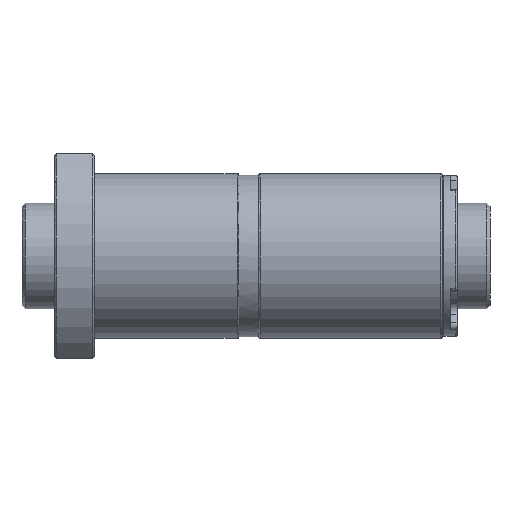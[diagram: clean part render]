
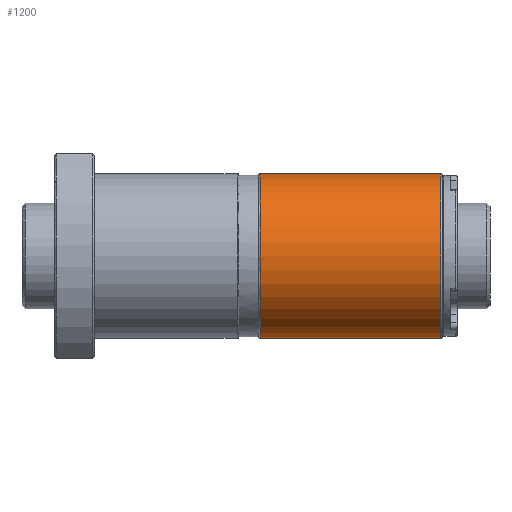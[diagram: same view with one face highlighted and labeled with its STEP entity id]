
A CAD part, front view. The second image highlights one B-rep face of the part: STEP entity #1200.
In plain terms, the highlighted cylindrical face has radius 25 mm (diameter 50 mm), a partial arc.
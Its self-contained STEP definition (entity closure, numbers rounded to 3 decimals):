
#1028 = AXIS2_PLACEMENT_3D ( 'NONE', #3173, #10742, #3872 ) ;
#1200 = ADVANCED_FACE ( 'NONE', ( #8860 ), #6443, .T. ) ;
#1290 = CIRCLE ( 'NONE', #1028, 25. ) ;
#1436 = EDGE_CURVE ( 'NONE', #7813, #2389, #2267, .T. ) ;
#1840 = CARTESIAN_POINT ( 'NONE',  ( 62.25, 0., 25. ) ) ;
#2092 = DIRECTION ( 'NONE',  ( -1., 0., 0. ) ) ;
#2253 = EDGE_CURVE ( 'NONE', #4598, #9145, #1290, .T. ) ;
#2267 = CIRCLE ( 'NONE', #9374, 25. ) ;
#2389 = VERTEX_POINT ( 'NONE', #9451 ) ;
#2994 = ORIENTED_EDGE ( 'NONE', *, *, #4267, .F. ) ;
#3046 = CARTESIAN_POINT ( 'NONE',  ( 117., 0., -25. ) ) ;
#3173 = CARTESIAN_POINT ( 'NONE',  ( 117., 0., 0. ) ) ;
#3362 = CARTESIAN_POINT ( 'NONE',  ( 62.25, 0., 0. ) ) ;
#3778 = CARTESIAN_POINT ( 'NONE',  ( 117.5, 0., 0. ) ) ;
#3872 = DIRECTION ( 'NONE',  ( 0., 0., 1. ) ) ;
#4267 = EDGE_CURVE ( 'NONE', #4598, #2389, #5850, .T. ) ;
#4598 = VERTEX_POINT ( 'NONE', #3046 ) ;
#4826 = ORIENTED_EDGE ( 'NONE', *, *, #2253, .T. ) ;
#5544 = DIRECTION ( 'NONE',  ( 0., 0., 1. ) ) ;
#5850 = LINE ( 'NONE', #6138, #6397 ) ;
#5926 = AXIS2_PLACEMENT_3D ( 'NONE', #3778, #2092, #5544 ) ;
#5967 = DIRECTION ( 'NONE',  ( 0., 0., 1. ) ) ;
#6000 = DIRECTION ( 'NONE',  ( 1., 0., 0. ) ) ;
#6138 = CARTESIAN_POINT ( 'NONE',  ( 117.5, 0., -25. ) ) ;
#6197 = LINE ( 'NONE', #6414, #10871 ) ;
#6378 = DIRECTION ( 'NONE',  ( -1., 0., 0. ) ) ;
#6397 = VECTOR ( 'NONE', #6953, 1000. ) ;
#6414 = CARTESIAN_POINT ( 'NONE',  ( 117.5, 0., 25. ) ) ;
#6443 = CYLINDRICAL_SURFACE ( 'NONE', #5926, 25. ) ;
#6953 = DIRECTION ( 'NONE',  ( -1., 0., 0. ) ) ;
#7397 = EDGE_CURVE ( 'NONE', #9145, #7813, #6197, .T. ) ;
#7813 = VERTEX_POINT ( 'NONE', #1840 ) ;
#8286 = EDGE_LOOP ( 'NONE', ( #2994, #4826, #10225, #8339 ) ) ;
#8339 = ORIENTED_EDGE ( 'NONE', *, *, #1436, .T. ) ;
#8594 = CARTESIAN_POINT ( 'NONE',  ( 117., 0., 25. ) ) ;
#8860 = FACE_OUTER_BOUND ( 'NONE', #8286, .T. ) ;
#9145 = VERTEX_POINT ( 'NONE', #8594 ) ;
#9374 = AXIS2_PLACEMENT_3D ( 'NONE', #3362, #6000, #5967 ) ;
#9451 = CARTESIAN_POINT ( 'NONE',  ( 62.25, 0., -25. ) ) ;
#10225 = ORIENTED_EDGE ( 'NONE', *, *, #7397, .T. ) ;
#10742 = DIRECTION ( 'NONE',  ( -1., 0., 0. ) ) ;
#10871 = VECTOR ( 'NONE', #6378, 1000. ) ;
